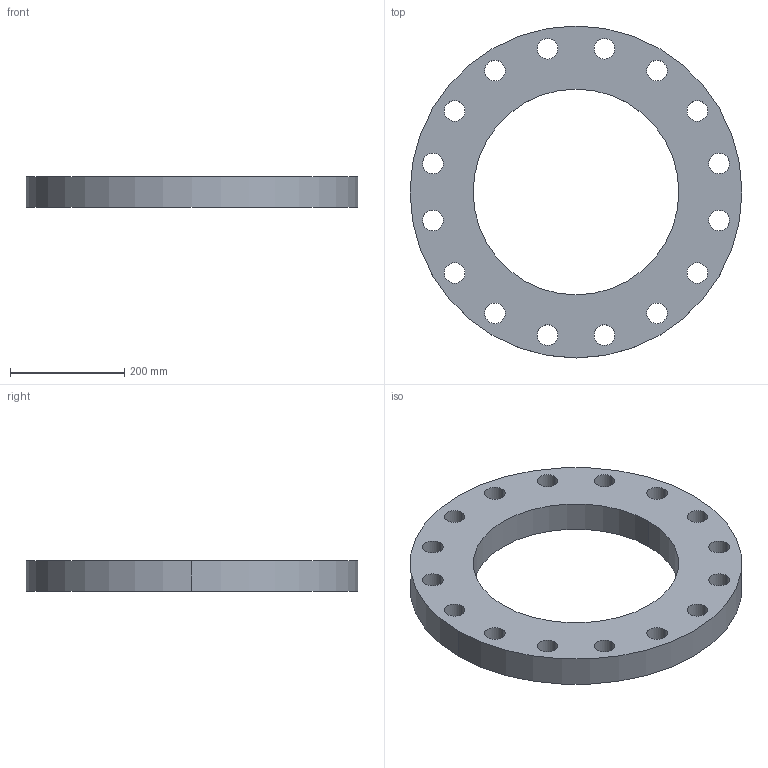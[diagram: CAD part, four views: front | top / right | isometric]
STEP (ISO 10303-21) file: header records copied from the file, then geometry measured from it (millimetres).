
FILE_DESCRIPTION (( 'STEP AP214' ), '1' );
FILE_NAME ('PN40 DN350 Type 01 - Type A Face.STEP', '2019-01-05T22:00:10', ( '' ), ( '' ), 'SwSTEP 2.0', 'SolidWorks 2019', '' );
FILE_SCHEMA (( 'AUTOMOTIVE_DESIGN' ));
Length unit declared in the file: millimetre
Products named in the file (1): PN40 DN350 Type 01 - Type A Face
Bounding box: 580 x 580 x 54 mm (x, y, z)
Volume: 7906511 mm3; surface area: 549932.3 mm2
Topology: 1 solids, 1 shells, 38 faces, 108 edges, 72 vertices
Faces by surface type: cylinder 36, plane 2
Entity records: 1386 total; most frequent: DIRECTION 258, CARTESIAN_POINT 219, ORIENTED_EDGE 216, AXIS2_PLACEMENT_3D 111, EDGE_CURVE 108, CIRCLE 72, EDGE_LOOP 72, VERTEX_POINT 72
